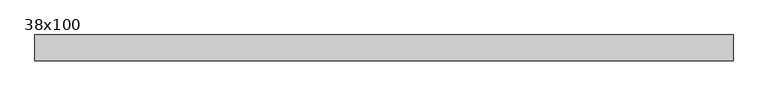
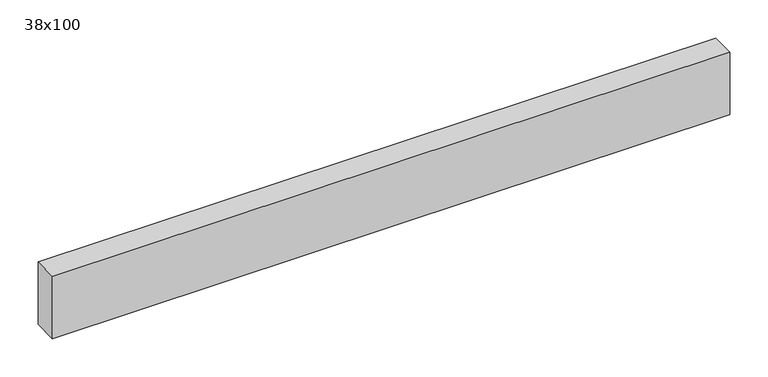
"""IFC4 building model written with IfcOpenShell, lengths in millimetres: beam geometry, Poutre - Bois de construction de dimensions courantes : 38x100."""

import ifcopenshell
import ifcopenshell.guid

model = None  # the IFC model being written
_history = None  # IfcOwnerHistory: only IFC2X3 demands one
_inside = {}  # id of a spatial element -> (the spatial element, [elements in it])
_under = {}  # id of a project, library or spatial element -> (it, [spatial elements below it])
_declared = {}  # id of a project -> (the project, [libraries it declares])
_typed = {}  # id of a type object -> (the type object, [elements of that type])
_made_of = {}  # id of a material, layer set ... -> (it, [elements and type objects made of it])


def new_model(schema):
    """Start an empty IFC model of exactly this schema.

    Asked for "IFC4X3", IfcOpenShell would pick the latest addendum, in which some entities
    have other attributes; the version numbers below select the first issue.
    IFC2X3 requires an IfcOwnerHistory on every rooted entity: one is made here for all.
    """
    global model, _history
    if schema == "IFC4X3":
        model = ifcopenshell.file(schema_version=(4, 3, 0, 0))
    else:
        model = ifcopenshell.file(schema=schema)
    _inside.clear()
    _under.clear()
    _declared.clear()
    _typed.clear()
    _made_of.clear()
    _history = None
    if model.schema == "IFC2X3":
        org = make("IfcOrganization", Name="unknown")
        user = make(
            "IfcPersonAndOrganization",
            ThePerson=make("IfcPerson", FamilyName="unknown"),
            TheOrganization=org,
        )
        app = make(
            "IfcApplication",
            ApplicationDeveloper=org,
            Version="unknown",
            ApplicationFullName="unknown",
            ApplicationIdentifier="unknown",
        )
        _history = make(
            "IfcOwnerHistory",
            OwningUser=user,
            OwningApplication=app,
            ChangeAction="ADDED",
            CreationDate=0,
        )
    return model


def make(cls, **values):
    """One entity of the class cls with the attributes given. An attribute that is None is left unset."""
    return model.create_entity(
        cls, **{name: value for name, value in values.items() if value is not None}
    )


def rooted(cls, **values):
    """An entity with a GlobalId (a new one), such as an element, a storey or a relation."""
    return make(cls, GlobalId=ifcopenshell.guid.new(), OwnerHistory=_history, **values)


def si_unit(unit_type, name, prefix=None):
    """IfcSIUnit, for example si_unit("LENGTHUNIT", "METRE", prefix="MILLI")."""
    return make("IfcSIUnit", UnitType=unit_type, Prefix=prefix, Name=name)


def assignment(units):
    """IfcUnitAssignment: the units of a project."""
    return None if units is None else make("IfcUnitAssignment", Units=units)


def point(xyz):
    """IfcCartesianPoint."""
    return None if xyz is None else make("IfcCartesianPoint", Coordinates=xyz)


def direction(xyz):
    """IfcDirection."""
    return None if xyz is None else make("IfcDirection", DirectionRatios=xyz)


def frame(location, z_axis=None, x_axis=None):
    """IfcAxis2Placement3D, a coordinate frame: its origin and axes. An axis left out is left unset."""
    return make(
        "IfcAxis2Placement3D",
        Location=point(location),
        Axis=direction(z_axis),
        RefDirection=direction(x_axis),
    )


def origin():
    """The frame at (0, 0, 0) with its axes left unset."""
    return frame((0.0, 0.0, 0.0))


def place(relative_to, where):
    """IfcLocalPlacement: puts the frame where relative to a parent placement (None: the world)."""
    return make(
        "IfcLocalPlacement", PlacementRelTo=relative_to, RelativePlacement=where
    )


def context(
    kind, dimensions, precision=None, world=None, true_north=None, identifier=None
):
    """IfcGeometricRepresentationContext, for example the 3D "Model" context."""
    return make(
        "IfcGeometricRepresentationContext",
        ContextIdentifier=identifier,
        ContextType=kind,
        CoordinateSpaceDimension=dimensions,
        Precision=precision,
        WorldCoordinateSystem=world,
        TrueNorth=true_north,
    )


def project(units=None, contexts=None):
    """IfcProject with its units and contexts."""
    return rooted(
        "IfcProject",
        Name="project",
        RepresentationContexts=contexts,
        UnitsInContext=assignment(units),
    )


def spatial(cls, under=None, at=None, **own):
    """A site, building, storey or space (cls), placed at a placement, below another one or the project."""
    s = rooted(cls, ObjectPlacement=at, **own)
    if under is not None:
        _under.setdefault(under.id(), (under, []))[1].append(s)
    return s


def polyline(points):
    """IfcPolyline through the points."""
    return make("IfcPolyline", Points=[point(p) for p in points])


def outline(outer, holes=None, kind="AREA"):
    """IfcArbitraryClosedProfileDef: a profile drawn as a closed curve; with holes, ...WithVoids."""
    if holes is None:
        return make("IfcArbitraryClosedProfileDef", ProfileType=kind, OuterCurve=outer)
    return make(
        "IfcArbitraryProfileDefWithVoids",
        ProfileType=kind,
        OuterCurve=outer,
        InnerCurves=holes,
    )


def extrude(swept, where, along, depth):
    """IfcExtrudedAreaSolid: the profile swept, set in the frame where, extruded along a direction by depth."""
    return make(
        "IfcExtrudedAreaSolid",
        SweptArea=swept,
        Position=where,
        ExtrudedDirection=direction(along),
        Depth=depth,
    )


def shape(context_of_items, identifier, shape_type, items):
    """IfcShapeRepresentation: the items that make up one representation, for example the "Body"."""
    return make(
        "IfcShapeRepresentation",
        ContextOfItems=context_of_items,
        RepresentationIdentifier=identifier,
        RepresentationType=shape_type,
        Items=items,
    )


def source(mapping_origin, context_of_items, identifier, shape_type, items):
    """IfcRepresentationMap: a shape defined once, which mapped items show again and again."""
    return make(
        "IfcRepresentationMap",
        MappingOrigin=mapping_origin,
        MappedRepresentation=shape(context_of_items, identifier, shape_type, items),
    )


def transform(
    local_origin,
    x_axis=None,
    y_axis=None,
    z_axis=None,
    scale=None,
    scale2=None,
    scale3=None,
    uniform=True,
):
    """IfcCartesianTransformationOperator3D, or its non-uniform kind. x_axis, y_axis, z_axis: its Axis1, 2, 3."""
    if uniform:
        return make(
            "IfcCartesianTransformationOperator3D",
            Axis1=direction(x_axis),
            Axis2=direction(y_axis),
            LocalOrigin=point(local_origin),
            Scale=scale,
            Axis3=direction(z_axis),
        )
    return make(
        "IfcCartesianTransformationOperator3DnonUniform",
        Axis1=direction(x_axis),
        Axis2=direction(y_axis),
        LocalOrigin=point(local_origin),
        Scale=scale,
        Axis3=direction(z_axis),
        Scale2=scale2,
        Scale3=scale3,
    )


def mapped(mapping_source, mapping_target):
    """IfcMappedItem: shows the shape of a source again, moved by a transform."""
    return make(
        "IfcMappedItem", MappingSource=mapping_source, MappingTarget=mapping_target
    )


def made_of(thing, what):
    """Note that an element or type object is made of a material, layer set ...; save() writes the relation."""
    if what is not None:
        _made_of.setdefault(what.id(), (what, []))[1].append(thing)
    return thing


def element(
    cls,
    number,
    at=None,
    inside=None,
    cuts=None,
    type_object=None,
    material=None,
    context=None,
    identifier="Body",
    shape_type=None,
    held_by="IfcProductDefinitionShape",
    body=None,
    shapes=None,
    **own,
):
    """One element of the class cls, such as IfcWall. Its Tag is "e" and its number.

    at: its placement. inside: the storey or other place that contains it. cuts: it is an
    opening in that element (IfcRelVoidsElement). A single representation is given by context,
    identifier, shape_type and body (its items); several are given by shapes. held_by: the class
    of the entity that holds the representations. save() writes the other relations.
    """
    e = rooted(cls, Tag="e%d" % number, ObjectPlacement=at, **own)
    if body is not None:
        shapes = [shape(context, identifier, shape_type, body)]
    if shapes is not None:
        e.Representation = make(held_by, Representations=shapes)
    if inside is not None:
        _inside.setdefault(inside.id(), (inside, []))[1].append(e)
    if cuts is not None:
        rooted(
            "IfcRelVoidsElement", RelatingBuildingElement=cuts, RelatedOpeningElement=e
        )
    if type_object is not None:
        _typed.setdefault(type_object.id(), (type_object, []))[1].append(e)
    return made_of(e, material)


def aggregate(whole, parts):
    """IfcRelAggregates: a whole, such as a stair, and the parts it consists of."""
    return rooted("IfcRelAggregates", RelatingObject=whole, RelatedObjects=parts)


def save(model, path):
    """Write the relations noted so far, then the file.

    IfcRelAggregates (storeys below a building ...), IfcRelContainedInSpatialStructure (elements
    in a storey), IfcRelDefinesByType, IfcRelAssociatesMaterial and IfcRelDeclares: one each for
    every whole, place, type object, material and project.
    """
    for whole, parts in _under.values():
        aggregate(whole, parts)
    for where, things in _inside.values():
        rooted(
            "IfcRelContainedInSpatialStructure",
            RelatedElements=things,
            RelatingStructure=where,
        )
    for kind, things in _typed.values():
        rooted("IfcRelDefinesByType", RelatedObjects=things, RelatingType=kind)
    for what, things in _made_of.values():
        rooted("IfcRelAssociatesMaterial", RelatedObjects=things, RelatingMaterial=what)
    for by, libraries in _declared.values():
        rooted("IfcRelDeclares", RelatingContext=by, RelatedDefinitions=libraries)
    model.write(path)


def beam_38x100_44c18db1(model_context):
    return source(origin(), model_context, "Body", "SweptSolid", [
        extrude(outline(polyline([(434.5, 19.05), (434.5, -19.05), (-594.5, -19.05), (-594.5, 19.05), (434.5, 19.05)])), frame((0.0, 0.0, -50.0), z_axis=(0.0, 0.0, 1.0), x_axis=(1.0, 0.0, 0.0)), (0.0, 0.0, 1.0), 100.0),
    ])


if __name__ == "__main__":
    model = new_model("IFC4")
    model_context = context("Model", 3, world=origin())
    ifc_project = project(units=[si_unit("LENGTHUNIT", "METRE", prefix="MILLI")], contexts=[model_context])
    site = spatial("IfcSite", under=ifc_project)
    building = spatial("IfcBuilding", under=site)
    placement = place(None, origin())
    beam_38x100_shape = beam_38x100_44c18db1(model_context)
    element("IfcBeam", 1, ObjectType="Poutre - Bois de construction de dimensions courantes : 38x100", at=placement, inside=building, context=model_context, shape_type="MappedRepresentation", body=[
        mapped(beam_38x100_shape, transform((0.0, 0.0, 0.0), x_axis=(1.0, 0.0, 0.0), y_axis=(0.0, 1.0, 0.0), z_axis=(0.0, 0.0, 1.0))),
    ])
    save(model, "model.ifc")
